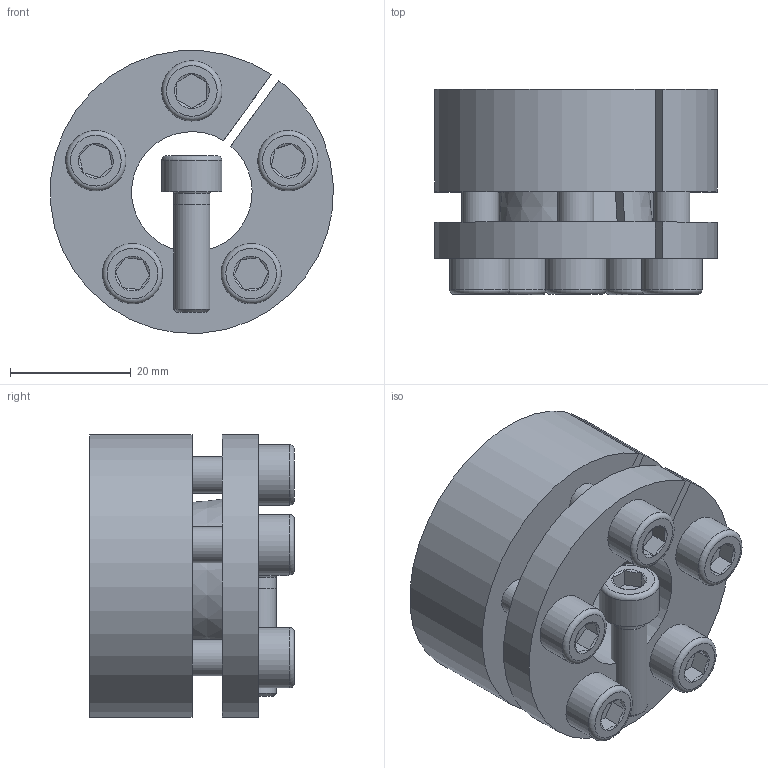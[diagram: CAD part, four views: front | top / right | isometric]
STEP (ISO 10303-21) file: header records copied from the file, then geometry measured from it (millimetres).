
FILE_DESCRIPTION( ( 'Unknown' ), '1' );
FILE_NAME( 'C:/Dokumente und Einstellungen/Sven/Desktop/homepage/cad - homepage/KBS13/KBS 13 - 20 x 47.stp', 'Unknown', ( 'Unknown' ), ( 'Unknown' ), 'XStep 1.0', 'Unknown', ' ' );
FILE_SCHEMA( ( 'automotive_design' ) );
Length unit declared in the file: millimetre
Products named in the file (3): Assem1; KBS 13 - 20 x 47; ISO EN DIN 4762 M6x20
Bounding box: 46.9 x 34 x 46.88 mm (x, y, z)
Volume: 65162.5 mm3; surface area: 30621.8 mm2
Topology: 8 solids, 8 shells, 194 faces, 398 edges, 244 vertices
Faces by surface type: plane 86, cylinder 50, cone 46, torus 12
Full cylindrical faces by diameter (mm): 5 x6, 6 x32, 10 x6
Entity records: 1552 total; most frequent: CARTESIAN_POINT 260, DIRECTION 230, ORIENTED_EDGE 170, AXIS2_PLACEMENT_3D 101, EDGE_LOOP 88, EDGE_CURVE 85, FACE_OUTER_BOUND 63, VERTEX_POINT 63
